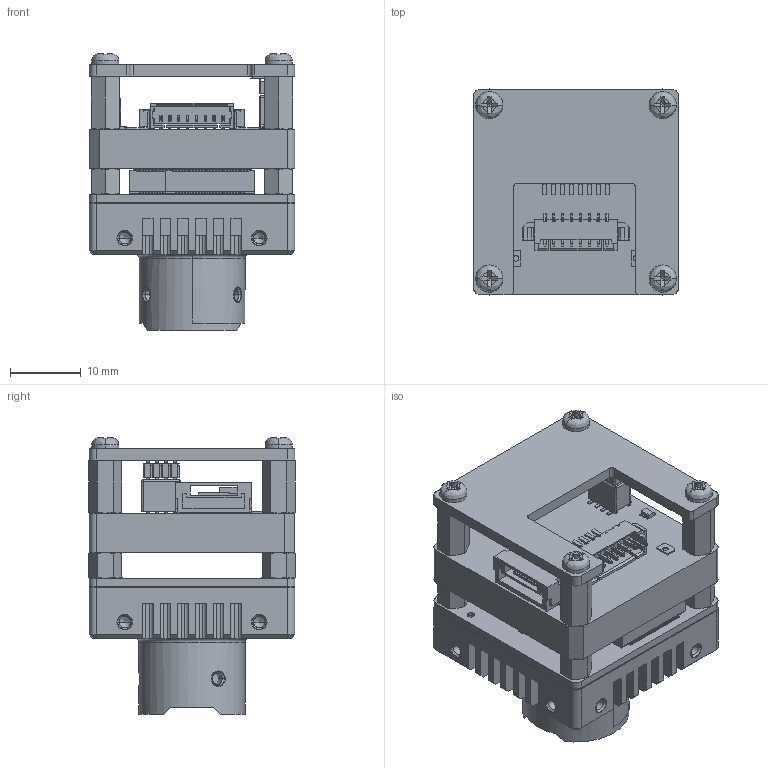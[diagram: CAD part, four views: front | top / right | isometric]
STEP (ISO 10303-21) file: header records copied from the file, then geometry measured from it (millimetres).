
FILE_DESCRIPTION((''),'2;1');
FILE_NAME('MV-CB016-10GM-S-WPOE','2023-05-18T14:38:51',('fangzhiyong'),(''),'CREO PARAMETRIC BY PTC INC, 2020044','CREO PARAMETRIC BY PTC INC, 2020044','');
FILE_SCHEMA(('CONFIG_CONTROL_DESIGN'));
Products named in the file (1): MV-CB016-10GM-S-WPOE
Bounding box: 29 x 29.12 x 39.03 mm (x, y, z)
Volume: 11762.9 mm3; surface area: 14328.1 mm2
Topology: 1 solids, 64 shells, 6091 faces, 18137 edges, 11959 vertices
Faces by surface type: plane 3942, cylinder 1827, cone 156, bspline 128, torus 34, sphere 4
Entity records: 212355 total; most frequent: CARTESIAN_POINT 45944, ORIENTED_EDGE 35996, DIRECTION 33056, EDGE_CURVE 18085, VECTOR 13514, LINE 13514, VERTEX_POINT 11959, AXIS2_PLACEMENT_3D 9771
